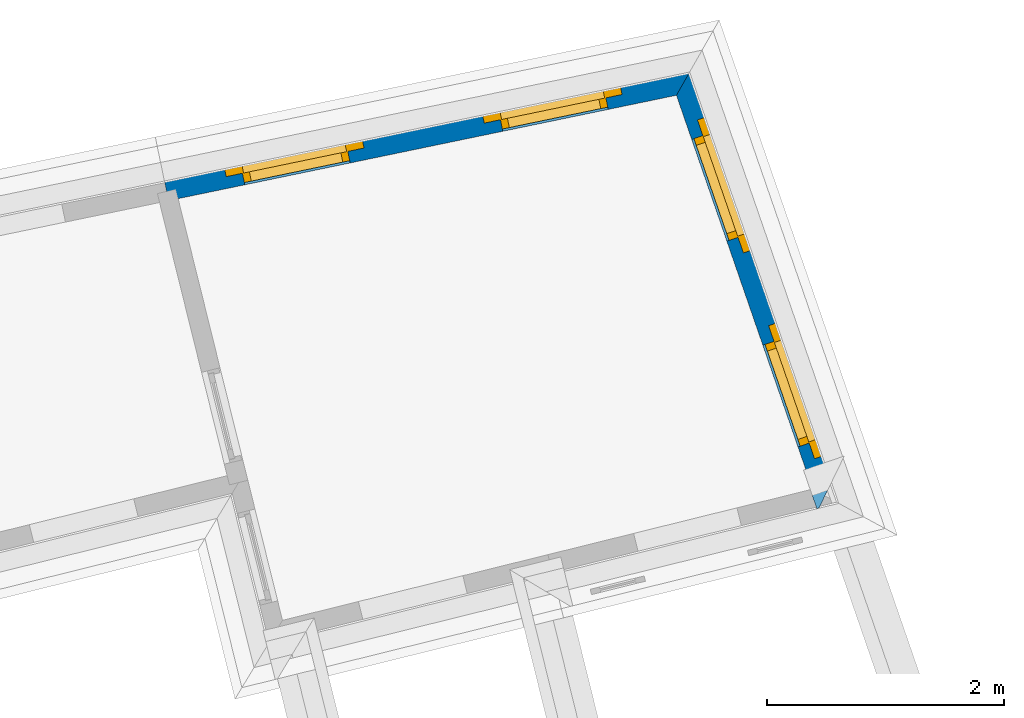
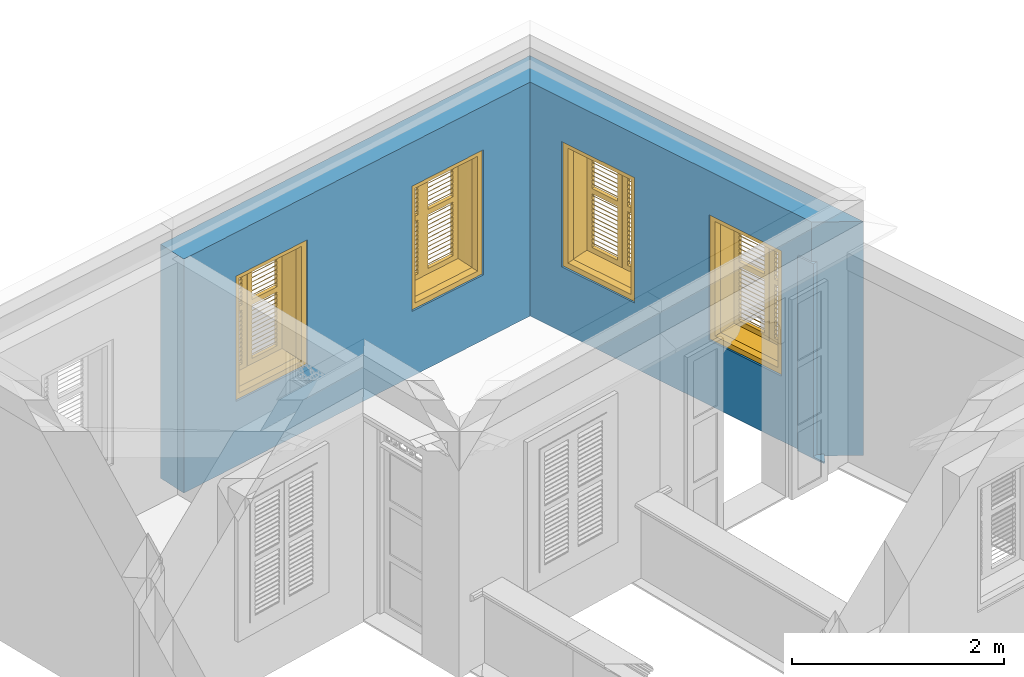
# One storey, part 12 of 15: 4 windows, 3 walls, 4 openings.
"""IFC4 building model written with IfcOpenShell, lengths in metres."""

from ifc_helpers import new_model, si_unit, frame, origin, origin_with_axes, place, context, subcontext, project, spatial, polyline, outline, extrude, clip, halfspace, faceted_brep, source, transform, mapped, material, layer, layer_set, layer_usage, material_profile, profile_set, profile_usage, type_object, type_shapes, element, fill, save


model = new_model("IFC4")

# Units and contexts
model_context = context("Model", 3, world=origin_with_axes())
body_context = subcontext(model_context, "Body", "Model", "MODEL_VIEW")
ifc_project = project(units=[si_unit("PLANEANGLEUNIT", "RADIAN"), si_unit("MASSUNIT", "GRAM", prefix="KILO"), si_unit("FORCEUNIT", "NEWTON", prefix="KILO"), si_unit("LENGTHUNIT", "METRE"), si_unit("AREAUNIT", "SQUARE_METRE"), si_unit("VOLUMEUNIT", "CUBIC_METRE")], contexts=[model_context, model_context])

# Site, building, storey
site_placement = place(None, origin_with_axes())
site = spatial("IfcSite", under=ifc_project, at=site_placement, Name="Site plot-5", CompositionType="ELEMENT")
building_placement = place(None, origin_with_axes())
building = spatial("IfcBuilding", under=site, at=building_placement, Name="Building plot-5", CompositionType="ELEMENT")
storey_placement = place(None, frame((0.0, 0.0, 3.45), z_axis=(0.0, 0.0, 1.0), x_axis=(1.0, 0.0, 0.0)))
storey = spatial("IfcBuildingStorey", under=building, at=storey_placement, Name="plot-5 1", CompositionType="ELEMENT", Elevation=3.45)

# Wall, openings, windows
ifc_material = material(Name="Masonry")
ifc_layer = layer(ifc_material, 0.33, ventilated=False)
ifc_layer_set = layer_set([ifc_layer], Name="exterior_0.08_0.25")
ifc_layer_usage = layer_usage(ifc_layer_set, "AXIS2", "POSITIVE", -0.25)
wall_type_1 = type_object("IfcWallType", Name="exterior_0.08_0.25", PredefinedType="SOLIDWALL", material=ifc_layer_set)
wall_1_placement = place(storey_placement, frame((22.7831942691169, 28.5894654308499, 0.0), z_axis=(0.0, 0.0, 1.0), x_axis=(-0.326708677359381, 0.945125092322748, 0.0)))
wall_1 = element("IfcWall", 1, at=wall_1_placement, inside=storey, type_object=wall_type_1, material=ifc_layer_usage, Name="exterior", context=body_context, shape_type="SweptSolid", body=[
    extrude(outline(polyline([(0.0875617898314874, 0.0799999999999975), (-0.273630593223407, -0.249999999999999), (3.90074241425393, -0.250000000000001), (3.61057343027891, 0.079999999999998), (0.0875617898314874, 0.0799999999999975)])), origin_with_axes(), (0.0, 0.0, 1.0), 2.7),
])
opening_1_placement = place(wall_1_placement, frame((0.465229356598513, 0.0, 0.75)))
opening_1 = element("IfcOpeningElement", 2, at=opening_1_placement, cuts=wall_1, Name="My Opening", ObjectType="Opening", context=body_context, shape_type="SweptSolid", body=[
    extrude(outline(polyline([(0.0, -0.270000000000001), (0.910000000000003, -0.270000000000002), (0.910000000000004, 1.1), (1.11022302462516e-15, 1.1), (0.0, -0.270000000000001)])), origin_with_axes(), (0.0, 0.0, 1.0), 1.445),
])
opening_2_placement = place(wall_1_placement, frame((2.30568806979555, 0.0, 0.75)))
opening_2 = element("IfcOpeningElement", 3, at=opening_2_placement, cuts=wall_1, Name="My Opening", ObjectType="Opening", context=body_context, shape_type="SweptSolid", body=[
    extrude(outline(polyline([(0.0, -0.270000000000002), (0.909999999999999, -0.270000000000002), (0.910000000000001, 1.1), (4.44089209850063e-16, 1.1), (0.0, -0.270000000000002)])), origin_with_axes(), (0.0, 0.0, 1.0), 1.445),
])
window_type = type_object("IfcWindowType", Name="shuttered_shorter", PartitioningType="DOUBLE_PANEL_HORIZONTAL", PredefinedType="NOTDEFINED")
shared_shape = source(origin(), body_context, "Body", "Brep", [
    faceted_brep([(0.393, 0.0, 0.622), (0.074, 0.0, 0.622), (0.074, 0.0, 0.632), (0.393, 0.0, 0.632), (0.074, -0.04, 0.592), (0.393, -0.04, 0.592), (0.393, -0.04, 0.582), (0.074, -0.04, 0.582), (0.517, 0.0, 0.682), (0.836, 0.0, 0.682), (0.836, 0.0, 0.672), (0.517, 0.0, 0.672), (0.517, -0.04, 0.642), (0.836, -0.04, 0.642), (0.836, -0.04, 0.632), (0.517, -0.04, 0.632), (0.517, 0.0, 0.632), (0.836, 0.0, 0.632), (0.836, 0.0, 0.622), (0.517, 0.0, 0.622), (0.517, -0.04, 0.592), (0.836, -0.04, 0.592), (0.836, -0.04, 0.582), (0.517, -0.04, 0.582), (0.517, 0.0, 0.232), (0.836, 0.0, 0.232), (0.836, 0.0, 0.222), (0.517, 0.0, 0.222), (0.517, -0.04, 0.192), (0.836, -0.04, 0.192), (0.836, -0.04, 0.182), (0.517, -0.04, 0.182), (0.517, 0.0, 0.532), (0.836, 0.0, 0.532), (0.836, 0.0, 0.522), (0.517, 0.0, 0.522), (0.517, -0.04, 0.492), (0.836, -0.04, 0.492), (0.836, -0.04, 0.482), (0.517, -0.04, 0.482), (0.517, 0.0, 0.482), (0.836, 0.0, 0.482), (0.836, 0.0, 0.472), (0.517, 0.0, 0.472), (0.517, -0.04, 0.442), (0.836, -0.04, 0.442), (0.836, -0.04, 0.432), (0.517, -0.04, 0.432), (0.517, 0.0, 0.582), (0.836, 0.0, 0.582), (0.836, 0.0, 0.572), (0.517, 0.0, 0.572), (0.517, -0.04, 0.542), (0.836, -0.04, 0.542), (0.836, -0.04, 0.532), (0.517, -0.04, 0.532), (0.517, 0.0, 0.182), (0.836, 0.0, 0.182), (0.836, 0.0, 0.172), (0.517, 0.0, 0.172), (0.517, -0.04, 0.142), (0.836, -0.04, 0.142), (0.836, -0.04, 0.132), (0.517, -0.04, 0.132), (0.517, 0.0, 0.382), (0.836, 0.0, 0.382), (0.836, 0.0, 0.372), (0.517, 0.0, 0.372), (0.517, -0.04, 0.342), (0.836, -0.04, 0.342), (0.836, -0.04, 0.332), (0.517, -0.04, 0.332), (0.517, 0.0, 0.432), (0.836, 0.0, 0.432), (0.836, 0.0, 0.422), (0.517, 0.0, 0.422), (0.517, -0.04, 0.392), (0.836, -0.04, 0.392), (0.836, -0.04, 0.382), (0.517, -0.04, 0.382), (0.517, 0.0, 0.132), (0.836, 0.0, 0.132), (0.836, 0.0, 0.122), (0.517, 0.0, 0.122), (0.517, -0.04, 0.092), (0.836, -0.04, 0.092), (0.836, -0.04, 0.082), (0.517, -0.04, 0.082), (0.517, 0.0, 0.282), (0.836, 0.0, 0.282), (0.836, 0.0, 0.272), (0.517, 0.0, 0.272), (0.517, -0.04, 0.242), (0.836, -0.04, 0.242), (0.836, -0.04, 0.232), (0.517, -0.04, 0.232), (0.517, 0.0, 0.332), (0.836, 0.0, 0.332), (0.836, 0.0, 0.322), (0.517, 0.0, 0.322), (0.517, -0.04, 0.292), (0.836, -0.04, 0.292), (0.836, -0.04, 0.282), (0.517, -0.04, 0.282), (0.517, 0.0, 1.362667), (0.836, 0.0, 1.362667), (0.836, 0.0, 1.352667), (0.517, 0.0, 1.352667), (0.517, -0.04, 1.322667), (0.836, -0.04, 1.322667), (0.836, -0.04, 1.312667), (0.517, -0.04, 1.312667), (0.517, 0.0, 1.312667), (0.836, 0.0, 1.312667), (0.836, 0.0, 1.302667), (0.517, 0.0, 1.302667), (0.517, -0.04, 1.272667), (0.836, -0.04, 1.272667), (0.836, -0.04, 1.262667), (0.517, -0.04, 1.262667), (0.517, 0.0, 0.912667), (0.836, 0.0, 0.912667), (0.836, 0.0, 0.902667), (0.517, 0.0, 0.902667), (0.517, -0.04, 0.872667), (0.836, -0.04, 0.872667), (0.836, -0.04, 0.862667), (0.517, -0.04, 0.862667), (0.517, 0.0, 1.212667), (0.836, 0.0, 1.212667), (0.836, 0.0, 1.202667), (0.517, 0.0, 1.202667), (0.517, -0.04, 1.172667), (0.836, -0.04, 1.172667), (0.836, -0.04, 1.162667), (0.517, -0.04, 1.162667), (0.517, 0.0, 1.162667), (0.836, 0.0, 1.162667), (0.836, 0.0, 1.152667), (0.517, 0.0, 1.152667), (0.517, -0.04, 1.122667), (0.836, -0.04, 1.122667), (0.836, -0.04, 1.112667), (0.517, -0.04, 1.112667), (0.517, 0.0, 1.262667), (0.836, 0.0, 1.262667), (0.836, 0.0, 1.252667), (0.517, 0.0, 1.252667), (0.517, -0.04, 1.222667), (0.836, -0.04, 1.222667), (0.836, -0.04, 1.212667), (0.517, -0.04, 1.212667), (0.517, 0.0, 0.862667), (0.836, 0.0, 0.862667), (0.836, 0.0, 0.852667), (0.517, 0.0, 0.852667), (0.517, -0.04, 0.822667), (0.836, -0.04, 0.822667), (0.836, -0.04, 0.812667), (0.517, -0.04, 0.812667), (0.517, 0.0, 1.062667), (0.836, 0.0, 1.062667), (0.836, 0.0, 1.052667), (0.517, 0.0, 1.052667), (0.517, -0.04, 1.022667), (0.836, -0.04, 1.022667), (0.836, -0.04, 1.012667), (0.517, -0.04, 1.012667), (0.517, 0.0, 1.112667), (0.836, 0.0, 1.112667), (0.836, 0.0, 1.102667), (0.517, 0.0, 1.102667), (0.517, -0.04, 1.072667), (0.836, -0.04, 1.072667), (0.836, -0.04, 1.062667), (0.517, -0.04, 1.062667), (0.517, 0.0, 0.812667), (0.836, 0.0, 0.812667), (0.836, 0.0, 0.802667), (0.517, 0.0, 0.802667), (0.517, -0.04, 0.772667), (0.836, -0.04, 0.772667), (0.836, -0.04, 0.762667), (0.517, -0.04, 0.762667), (0.517, 0.0, 0.962667), (0.836, 0.0, 0.962667), (0.836, 0.0, 0.952667), (0.517, 0.0, 0.952667), (0.517, -0.04, 0.922667), (0.836, -0.04, 0.922667), (0.836, -0.04, 0.912667), (0.517, -0.04, 0.912667), (0.517, 0.0, 1.012667), (0.836, 0.0, 1.012667), (0.836, 0.0, 1.002667), (0.517, 0.0, 1.002667), (0.517, -0.04, 0.972667), (0.836, -0.04, 0.972667), (0.836, -0.04, 0.962667), (0.517, -0.04, 0.962667), (0.074, 0.0, 0.682), (0.393, 0.0, 0.682), (0.393, 0.0, 0.672), (0.074, 0.0, 0.672), (0.074, -0.04, 0.642), (0.393, -0.04, 0.642), (0.393, -0.04, 0.632), (0.074, -0.04, 0.632), (0.074, 0.0, 0.232), (0.393, 0.0, 0.232), (0.393, 0.0, 0.222), (0.074, 0.0, 0.222), (0.074, -0.04, 0.192), (0.393, -0.04, 0.192), (0.393, -0.04, 0.182), (0.074, -0.04, 0.182), (0.074, 0.0, 0.532), (0.393, 0.0, 0.532), (0.393, 0.0, 0.522), (0.074, 0.0, 0.522), (0.074, -0.04, 0.492), (0.393, -0.04, 0.492), (0.393, -0.04, 0.482), (0.074, -0.04, 0.482), (0.074, 0.0, 0.482), (0.393, 0.0, 0.482), (0.393, 0.0, 0.472), (0.074, 0.0, 0.472), (0.074, -0.04, 0.442), (0.393, -0.04, 0.442), (0.393, -0.04, 0.432), (0.074, -0.04, 0.432), (0.074, 0.0, 0.582), (0.393, 0.0, 0.582), (0.393, 0.0, 0.572), (0.074, 0.0, 0.572), (0.074, -0.04, 0.542), (0.393, -0.04, 0.542), (0.393, -0.04, 0.532), (0.074, -0.04, 0.532), (0.074, 0.0, 0.182), (0.393, 0.0, 0.182), (0.393, 0.0, 0.172), (0.074, 0.0, 0.172), (0.074, -0.04, 0.142), (0.393, -0.04, 0.142), (0.393, -0.04, 0.132), (0.074, -0.04, 0.132), (0.074, 0.0, 0.382), (0.393, 0.0, 0.382), (0.393, 0.0, 0.372), (0.074, 0.0, 0.372), (0.074, -0.04, 0.342), (0.393, -0.04, 0.342), (0.393, -0.04, 0.332), (0.074, -0.04, 0.332), (0.074, 0.0, 0.432), (0.393, 0.0, 0.432), (0.393, 0.0, 0.422), (0.074, 0.0, 0.422), (0.074, -0.04, 0.392), (0.393, -0.04, 0.392), (0.393, -0.04, 0.382), (0.074, -0.04, 0.382), (0.074, 0.0, 0.132), (0.393, 0.0, 0.132), (0.393, 0.0, 0.122), (0.074, 0.0, 0.122), (0.074, -0.04, 0.092), (0.393, -0.04, 0.092), (0.393, -0.04, 0.082), (0.074, -0.04, 0.082), (0.074, 0.0, 0.282), (0.393, 0.0, 0.282), (0.393, 0.0, 0.272), (0.074, 0.0, 0.272), (0.074, -0.04, 0.242), (0.393, -0.04, 0.242), (0.393, -0.04, 0.232), (0.074, -0.04, 0.232), (0.074, 0.0, 0.332), (0.393, 0.0, 0.332), (0.393, 0.0, 0.322), (0.074, 0.0, 0.322), (0.074, -0.04, 0.292), (0.393, -0.04, 0.292), (0.393, -0.04, 0.282), (0.074, -0.04, 0.282), (0.074, 0.0, 1.362667), (0.393, 0.0, 1.362667), (0.393, 0.0, 1.352667), (0.074, 0.0, 1.352667), (0.074, -0.04, 1.322667), (0.393, -0.04, 1.322667), (0.393, -0.04, 1.312667), (0.074, -0.04, 1.312667), (0.074, 0.0, 1.312667), (0.393, 0.0, 1.312667), (0.393, 0.0, 1.302667), (0.074, 0.0, 1.302667), (0.074, -0.04, 1.272667), (0.393, -0.04, 1.272667), (0.393, -0.04, 1.262667), (0.074, -0.04, 1.262667), (0.074, 0.0, 0.912667), (0.393, 0.0, 0.912667), (0.393, 0.0, 0.902667), (0.074, 0.0, 0.902667), (0.074, -0.04, 0.872667), (0.393, -0.04, 0.872667), (0.393, -0.04, 0.862667), (0.074, -0.04, 0.862667), (0.074, 0.0, 1.212667), (0.393, 0.0, 1.212667), (0.393, 0.0, 1.202667), (0.074, 0.0, 1.202667), (0.074, -0.04, 1.172667), (0.393, -0.04, 1.172667), (0.393, -0.04, 1.162667), (0.074, -0.04, 1.162667), (0.074, 0.0, 1.162667), (0.393, 0.0, 1.162667), (0.393, 0.0, 1.152667), (0.074, 0.0, 1.152667), (0.074, -0.04, 1.122667), (0.393, -0.04, 1.122667), (0.393, -0.04, 1.112667), (0.074, -0.04, 1.112667), (0.074, 0.0, 1.262667), (0.393, 0.0, 1.262667), (0.393, 0.0, 1.252667), (0.074, 0.0, 1.252667), (0.074, -0.04, 1.222667), (0.393, -0.04, 1.222667), (0.393, -0.04, 1.212667), (0.074, -0.04, 1.212667), (0.074, 0.0, 0.862667), (0.393, 0.0, 0.862667), (0.393, 0.0, 0.852667), (0.074, 0.0, 0.852667), (0.074, -0.04, 0.822667), (0.393, -0.04, 0.822667), (0.393, -0.04, 0.812667), (0.074, -0.04, 0.812667), (0.074, 0.0, 1.062667), (0.393, 0.0, 1.062667), (0.393, 0.0, 1.052667), (0.074, 0.0, 1.052667), (0.074, -0.04, 1.022667), (0.393, -0.04, 1.022667), (0.393, -0.04, 1.012667), (0.074, -0.04, 1.012667), (0.074, 0.0, 1.112667), (0.393, 0.0, 1.112667), (0.393, 0.0, 1.102667), (0.074, 0.0, 1.102667), (0.074, -0.04, 1.072667), (0.393, -0.04, 1.072667), (0.393, -0.04, 1.062667), (0.074, -0.04, 1.062667), (0.074, 0.0, 0.812667), (0.393, 0.0, 0.812667), (0.393, 0.0, 0.802667), (0.074, 0.0, 0.802667), (0.074, -0.04, 0.772667), (0.393, -0.04, 0.772667), (0.393, -0.04, 0.762667), (0.074, -0.04, 0.762667), (0.074, 0.0, 0.962667), (0.393, 0.0, 0.962667), (0.393, 0.0, 0.952667), (0.074, 0.0, 0.952667), (0.074, -0.04, 0.922667), (0.393, -0.04, 0.922667), (0.393, -0.04, 0.912667), (0.074, -0.04, 0.912667), (0.074, 0.0, 1.012667), (0.393, 0.0, 1.012667), (0.393, 0.0, 1.002667), (0.074, 0.0, 1.002667), (0.074, -0.04, 0.972667), (0.393, -0.04, 0.972667), (0.393, -0.04, 0.962667), (0.074, -0.04, 0.962667), (0.517, -0.04, 0.072), (0.457, -0.04, 0.012), (0.896, -0.04, 0.012), (0.836, -0.04, 0.072), (0.457, -0.04, 0.692667), (0.517, -0.04, 0.692667), (0.457, 0.0, 0.012), (0.896, 0.0, 0.012), (0.836, -0.04, 0.692667), (0.896, -0.04, 0.692667), (0.836, 0.0, 0.072), (0.517, 0.0, 0.072), (0.457, 0.0, 0.692667), (0.517, 0.0, 0.692667), (0.517, -0.04, 0.752666), (0.457, -0.04, 0.752666), (0.896, 0.0, 0.692667), (0.836, 0.0, 0.692667), (0.836, -0.04, 0.752666), (0.896, -0.04, 0.752666), (0.457, 0.0, 0.752666), (0.457, -0.04, 1.433333), (0.517, -0.04, 1.373333), (0.896, 0.0, 0.752666), (0.836, -0.04, 1.373333), (0.896, -0.04, 1.433333), (0.457, 0.0, 1.433333), (0.517, 0.0, 0.752666), (0.836, 0.0, 0.752666), (0.517, 0.0, 1.373333), (0.896, 0.0, 1.433333), (0.836, 0.0, 1.373333), (0.074, -0.04, 0.072), (0.014, -0.04, 0.012), (0.453, -0.04, 0.012), (0.393, -0.04, 0.072), (0.014, -0.04, 0.692667), (0.074, -0.04, 0.692667), (0.014, 0.0, 0.012), (0.453, 0.0, 0.012), (0.393, -0.04, 0.692667), (0.453, -0.04, 0.692667), (0.393, 0.0, 0.072), (0.074, 0.0, 0.072), (0.014, 0.0, 0.692667), (0.074, 0.0, 0.692667), (0.074, -0.04, 0.752666), (0.014, -0.04, 0.752666), (0.453, 0.0, 0.692667), (0.393, 0.0, 0.692667), (0.393, -0.04, 0.752666), (0.453, -0.04, 0.752666), (0.014, 0.0, 0.752666), (0.014, -0.04, 1.433333), (0.074, -0.04, 1.373333), (0.453, 0.0, 0.752666), (0.393, -0.04, 1.373333), (0.453, -0.04, 1.433333), (0.014, 0.0, 1.433333), (0.074, 0.0, 0.752666), (0.393, 0.0, 0.752666), (0.074, 0.0, 1.373333), (0.453, 0.0, 1.433333), (0.393, 0.0, 1.373333), (0.0, 0.33, 1.445), (0.91, 0.33, 1.445), (0.85, 0.33, 1.385), (0.06, 0.33, 1.385), (0.91, 0.25, 1.445), (0.0, 0.25, 1.445), (0.91, 0.25, 1.445), (0.85, 0.33, 0.06), (0.91, 0.33, 0.0), (0.85, 0.25, 1.385), (0.06, 0.25, 1.385), (0.0, 0.33, 0.0), (0.06, 0.33, 0.06), (0.0, 0.25, 0.0), (0.91, 0.25, 0.0), (0.85, 0.25, 0.06), (0.06, 0.25, 0.06), (1.05, 0.25, 1.585), (-0.14, 0.25, 1.585), (-0.14, -0.03, 1.585), (1.05, -0.03, 1.585), (0.9, -0.03, 1.435), (0.01, -0.03, 1.435), (0.01, 0.25, 1.435), (0.9, 0.25, 1.435), (0.9, 0.25, 0.01), (0.9, -0.03, 0.01), (1.05, -0.03, -0.14), (1.05, 0.25, -0.14), (0.01, -0.03, 0.01), (0.01, 0.25, 0.01), (-0.14, -0.03, -0.14), (-0.14, 0.25, -0.14)], [[[0, 1, 2, 3]], [[4, 5, 3, 2]], [[5, 6, 0, 3]], [[1, 0, 6, 7]], [[2, 1, 7, 4]], [[5, 4, 7, 6]], [[8, 9, 10, 11]], [[12, 13, 9, 8]], [[13, 14, 10, 9]], [[14, 15, 11, 10]], [[15, 12, 8, 11]], [[13, 12, 15, 14]], [[16, 17, 18, 19]], [[20, 21, 17, 16]], [[21, 22, 18, 17]], [[22, 23, 19, 18]], [[23, 20, 16, 19]], [[21, 20, 23, 22]], [[24, 25, 26, 27]], [[28, 29, 25, 24]], [[29, 30, 26, 25]], [[30, 31, 27, 26]], [[31, 28, 24, 27]], [[29, 28, 31, 30]], [[32, 33, 34, 35]], [[36, 37, 33, 32]], [[37, 38, 34, 33]], [[38, 39, 35, 34]], [[39, 36, 32, 35]], [[37, 36, 39, 38]], [[40, 41, 42, 43]], [[44, 45, 41, 40]], [[45, 46, 42, 41]], [[46, 47, 43, 42]], [[47, 44, 40, 43]], [[45, 44, 47, 46]], [[48, 49, 50, 51]], [[52, 53, 49, 48]], [[53, 54, 50, 49]], [[54, 55, 51, 50]], [[55, 52, 48, 51]], [[53, 52, 55, 54]], [[56, 57, 58, 59]], [[60, 61, 57, 56]], [[61, 62, 58, 57]], [[62, 63, 59, 58]], [[63, 60, 56, 59]], [[61, 60, 63, 62]], [[64, 65, 66, 67]], [[68, 69, 65, 64]], [[69, 70, 66, 65]], [[70, 71, 67, 66]], [[71, 68, 64, 67]], [[69, 68, 71, 70]], [[72, 73, 74, 75]], [[76, 77, 73, 72]], [[77, 78, 74, 73]], [[78, 79, 75, 74]], [[79, 76, 72, 75]], [[77, 76, 79, 78]], [[80, 81, 82, 83]], [[84, 85, 81, 80]], [[85, 86, 82, 81]], [[86, 87, 83, 82]], [[87, 84, 80, 83]], [[85, 84, 87, 86]], [[88, 89, 90, 91]], [[92, 93, 89, 88]], [[93, 94, 90, 89]], [[94, 95, 91, 90]], [[95, 92, 88, 91]], [[93, 92, 95, 94]], [[96, 97, 98, 99]], [[100, 101, 97, 96]], [[101, 102, 98, 97]], [[102, 103, 99, 98]], [[103, 100, 96, 99]], [[101, 100, 103, 102]], [[104, 105, 106, 107]], [[108, 109, 105, 104]], [[109, 110, 106, 105]], [[110, 111, 107, 106]], [[111, 108, 104, 107]], [[109, 108, 111, 110]], [[112, 113, 114, 115]], [[116, 117, 113, 112]], [[117, 118, 114, 113]], [[118, 119, 115, 114]], [[119, 116, 112, 115]], [[117, 116, 119, 118]], [[120, 121, 122, 123]], [[124, 125, 121, 120]], [[125, 126, 122, 121]], [[126, 127, 123, 122]], [[127, 124, 120, 123]], [[125, 124, 127, 126]], [[128, 129, 130, 131]], [[132, 133, 129, 128]], [[133, 134, 130, 129]], [[134, 135, 131, 130]], [[135, 132, 128, 131]], [[133, 132, 135, 134]], [[136, 137, 138, 139]], [[140, 141, 137, 136]], [[141, 142, 138, 137]], [[142, 143, 139, 138]], [[139, 143, 140, 136]], [[141, 140, 143, 142]], [[144, 145, 146, 147]], [[148, 149, 145, 144]], [[149, 150, 146, 145]], [[150, 151, 147, 146]], [[151, 148, 144, 147]], [[149, 148, 151, 150]], [[152, 153, 154, 155]], [[156, 157, 153, 152]], [[157, 158, 154, 153]], [[158, 159, 155, 154]], [[159, 156, 152, 155]], [[157, 156, 159, 158]], [[160, 161, 162, 163]], [[164, 165, 161, 160]], [[165, 166, 162, 161]], [[166, 167, 163, 162]], [[167, 164, 160, 163]], [[165, 164, 167, 166]], [[168, 169, 170, 171]], [[172, 173, 169, 168]], [[173, 174, 170, 169]], [[174, 175, 171, 170]], [[175, 172, 168, 171]], [[173, 172, 175, 174]], [[176, 177, 178, 179]], [[180, 181, 177, 176]], [[181, 182, 178, 177]], [[182, 183, 179, 178]], [[183, 180, 176, 179]], [[181, 180, 183, 182]], [[184, 185, 186, 187]], [[188, 189, 185, 184]], [[189, 190, 186, 185]], [[190, 191, 187, 186]], [[191, 188, 184, 187]], [[189, 188, 191, 190]], [[192, 193, 194, 195]], [[196, 197, 193, 192]], [[197, 198, 194, 193]], [[198, 199, 195, 194]], [[199, 196, 192, 195]], [[197, 196, 199, 198]], [[200, 201, 202, 203]], [[204, 205, 201, 200]], [[205, 206, 202, 201]], [[206, 207, 203, 202]], [[207, 204, 200, 203]], [[205, 204, 207, 206]], [[208, 209, 210, 211]], [[212, 213, 209, 208]], [[213, 214, 210, 209]], [[214, 215, 211, 210]], [[215, 212, 208, 211]], [[213, 212, 215, 214]], [[216, 217, 218, 219]], [[220, 221, 217, 216]], [[221, 222, 218, 217]], [[222, 223, 219, 218]], [[223, 220, 216, 219]], [[221, 220, 223, 222]], [[224, 225, 226, 227]], [[228, 229, 225, 224]], [[229, 230, 226, 225]], [[230, 231, 227, 226]], [[231, 228, 224, 227]], [[229, 228, 231, 230]], [[232, 233, 234, 235]], [[236, 237, 233, 232]], [[237, 238, 234, 233]], [[238, 239, 235, 234]], [[239, 236, 232, 235]], [[237, 236, 239, 238]], [[240, 241, 242, 243]], [[244, 245, 241, 240]], [[245, 246, 242, 241]], [[246, 247, 243, 242]], [[247, 244, 240, 243]], [[245, 244, 247, 246]], [[248, 249, 250, 251]], [[252, 253, 249, 248]], [[253, 254, 250, 249]], [[254, 255, 251, 250]], [[255, 252, 248, 251]], [[253, 252, 255, 254]], [[256, 257, 258, 259]], [[260, 261, 257, 256]], [[261, 262, 258, 257]], [[262, 263, 259, 258]], [[263, 260, 256, 259]], [[261, 260, 263, 262]], [[264, 265, 266, 267]], [[268, 269, 265, 264]], [[269, 270, 266, 265]], [[270, 271, 267, 266]], [[271, 268, 264, 267]], [[269, 268, 271, 270]], [[272, 273, 274, 275]], [[276, 277, 273, 272]], [[277, 278, 274, 273]], [[278, 279, 275, 274]], [[279, 276, 272, 275]], [[277, 276, 279, 278]], [[280, 281, 282, 283]], [[284, 285, 281, 280]], [[285, 286, 282, 281]], [[286, 287, 283, 282]], [[287, 284, 280, 283]], [[285, 284, 287, 286]], [[288, 289, 290, 291]], [[292, 293, 289, 288]], [[293, 294, 290, 289]], [[294, 295, 291, 290]], [[295, 292, 288, 291]], [[293, 292, 295, 294]], [[296, 297, 298, 299]], [[300, 301, 297, 296]], [[301, 302, 298, 297]], [[302, 303, 299, 298]], [[303, 300, 296, 299]], [[301, 300, 303, 302]], [[304, 305, 306, 307]], [[308, 309, 305, 304]], [[309, 310, 306, 305]], [[310, 311, 307, 306]], [[311, 308, 304, 307]], [[309, 308, 311, 310]], [[312, 313, 314, 315]], [[316, 317, 313, 312]], [[317, 318, 314, 313]], [[318, 319, 315, 314]], [[319, 316, 312, 315]], [[317, 316, 319, 318]], [[320, 321, 322, 323]], [[324, 325, 321, 320]], [[325, 326, 322, 321]], [[326, 327, 323, 322]], [[327, 324, 320, 323]], [[325, 324, 327, 326]], [[328, 329, 330, 331]], [[332, 333, 329, 328]], [[333, 334, 330, 329]], [[334, 335, 331, 330]], [[335, 332, 328, 331]], [[333, 332, 335, 334]], [[336, 337, 338, 339]], [[340, 341, 337, 336]], [[341, 342, 338, 337]], [[342, 343, 339, 338]], [[343, 340, 336, 339]], [[341, 340, 343, 342]], [[344, 345, 346, 347]], [[348, 349, 345, 344]], [[349, 350, 346, 345]], [[350, 351, 347, 346]], [[351, 348, 344, 347]], [[349, 348, 351, 350]], [[352, 353, 354, 355]], [[356, 357, 353, 352]], [[357, 358, 354, 353]], [[358, 359, 355, 354]], [[359, 356, 352, 355]], [[357, 356, 359, 358]], [[360, 361, 362, 363]], [[364, 365, 361, 360]], [[365, 366, 362, 361]], [[366, 367, 363, 362]], [[367, 364, 360, 363]], [[365, 364, 367, 366]], [[368, 369, 370, 371]], [[372, 373, 369, 368]], [[373, 374, 370, 369]], [[374, 375, 371, 370]], [[375, 372, 368, 371]], [[373, 372, 375, 374]], [[376, 377, 378, 379]], [[380, 381, 377, 376]], [[381, 382, 378, 377]], [[382, 383, 379, 378]], [[383, 380, 376, 379]], [[381, 380, 383, 382]], [[384, 385, 386, 387]], [[388, 385, 384, 389]], [[390, 391, 386, 385]], [[392, 387, 386, 393]], [[384, 387, 394, 395]], [[390, 385, 388, 396]], [[389, 384, 395, 397]], [[389, 398, 399, 388]], [[390, 395, 394, 391]], [[400, 393, 386, 391]], [[387, 392, 401, 394]], [[402, 392, 393, 403]], [[396, 388, 399, 404]], [[390, 396, 397, 395]], [[392, 389, 397, 401]], [[398, 389, 392, 402]], [[405, 399, 398, 406]], [[394, 401, 400, 391]], [[407, 403, 393, 400]], [[408, 402, 403, 409]], [[404, 399, 405, 410]], [[411, 397, 396, 404]], [[397, 411, 412, 401]], [[398, 402, 412, 411]], [[406, 398, 411, 413]], [[405, 406, 408, 409]], [[401, 412, 407, 400]], [[414, 409, 403, 407]], [[402, 408, 415, 412]], [[405, 409, 414, 410]], [[404, 410, 413, 411]], [[408, 406, 413, 415]], [[412, 415, 414, 407]], [[413, 410, 414, 415]], [[416, 417, 418, 419]], [[420, 417, 416, 421]], [[422, 423, 418, 417]], [[424, 419, 418, 425]], [[416, 419, 426, 427]], [[422, 417, 420, 428]], [[421, 416, 427, 429]], [[421, 430, 431, 420]], [[422, 427, 426, 423]], [[432, 425, 418, 423]], [[419, 424, 433, 426]], [[434, 424, 425, 435]], [[428, 420, 431, 436]], [[422, 428, 429, 427]], [[424, 421, 429, 433]], [[430, 421, 424, 434]], [[437, 431, 430, 438]], [[426, 433, 432, 423]], [[439, 435, 425, 432]], [[440, 434, 435, 441]], [[436, 431, 437, 442]], [[443, 429, 428, 436]], [[429, 443, 444, 433]], [[430, 434, 444, 443]], [[438, 430, 443, 445]], [[437, 438, 440, 441]], [[433, 444, 439, 432]], [[446, 441, 435, 439]], [[434, 440, 447, 444]], [[437, 441, 446, 442]], [[436, 442, 445, 443]], [[440, 438, 445, 447]], [[444, 447, 446, 439]], [[445, 442, 446, 447]], [[448, 449, 450, 451]], [[452, 449, 448]], [[448, 453, 454]], [[448, 454, 452]], [[455, 450, 449, 456]], [[451, 450, 457, 458]], [[459, 448, 451, 460]], [[448, 459, 461, 453]], [[454, 453, 458, 457]], [[462, 452, 454]], [[454, 457, 463]], [[454, 463, 462]], [[456, 449, 452, 462]], [[450, 455, 463, 457]], [[456, 459, 460, 455]], [[460, 451, 458, 464]], [[459, 456, 462, 461]], [[464, 458, 453, 461]], [[461, 462, 463, 464]], [[455, 460, 464, 463]], [[465, 466, 467, 468]], [[469, 470, 471, 472]], [[473, 474, 469, 472]], [[465, 468, 475, 476]], [[470, 477, 478, 471]], [[474, 473, 478, 477]], [[474, 477, 479, 475]], [[470, 467, 479, 477]], [[470, 469, 468, 467]], [[474, 475, 468, 469]], [[471, 478, 480, 466]], [[473, 472, 465, 476]], [[473, 476, 480, 478]], [[466, 465, 472, 471]], [[480, 476, 475, 479]], [[480, 479, 467, 466]]]),
])
type_shapes(window_type, [shared_shape])
window_1_placement = place(storey_placement, frame((22.886383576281, 29.1173767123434, 0.75), z_axis=(0.0, 0.0, 1.0), x_axis=(-0.297304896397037, 0.860063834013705, 0.0)))
window_1 = element("IfcWindow", 4, at=window_1_placement, inside=storey, type_object=window_type, Name="circulation outside window", OverallHeight=1.445, OverallWidth=0.91, context=body_context, shape_type="MappedRepresentation", body=[
    mapped(shared_shape, transform((0.0, 0.0, 0.0), scale=1.0)),
])
fill(opening_1, window_1)
window_2_placement = place(storey_placement, frame((22.2850897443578, 30.8568404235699, 0.75), z_axis=(0.0, 0.0, 1.0), x_axis=(-0.297304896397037, 0.860063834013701, 0.0)))
window_2 = element("IfcWindow", 5, at=window_2_placement, inside=storey, type_object=window_type, Name="circulation outside window", OverallHeight=1.445, OverallWidth=0.91, context=body_context, shape_type="MappedRepresentation", body=[
    mapped(shared_shape, transform((0.0, 0.0, 0.0), scale=1.0)),
])
fill(opening_2, window_2)

wall_2_placement = place(storey_placement, frame((21.5806066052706, 32.068392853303, 0.0), z_axis=(0.0, 0.0, 1.0), x_axis=(-0.979153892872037, -0.203119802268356, 0.0)))
wall_2 = element("IfcWall", 6, at=wall_2_placement, inside=storey, type_object=wall_type_1, material=ifc_layer_usage, Name="exterior", context=body_context, shape_type="SweptSolid", body=[
    extrude(outline(polyline([(0.070343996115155, 0.0800000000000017), (-0.219824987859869, -0.249999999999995), (4.45606106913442, -0.249999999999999), (4.45606106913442, 0.0800000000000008), (0.070343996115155, 0.0800000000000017)])), origin_with_axes(), (0.0, 0.0, 1.0), 2.7),
])
opening_3_placement = place(wall_2_placement, frame((0.659015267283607, 0.0, 0.75)))
opening_3 = element("IfcOpeningElement", 7, at=opening_3_placement, cuts=wall_2, Name="My Opening", ObjectType="Opening", context=body_context, shape_type="SweptSolid", body=[
    extrude(outline(polyline([(0.0, -0.270000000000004), (0.91, -0.269999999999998), (0.909999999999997, 1.1), (-2.33146835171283e-15, 1.1), (0.0, -0.270000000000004)])), origin_with_axes(), (0.0, 0.0, 1.0), 1.445),
])
opening_4_placement = place(wall_2_placement, frame((2.88704580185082, 0.0, 0.75)))
opening_4 = element("IfcOpeningElement", 8, at=opening_4_placement, cuts=wall_2, Name="My Opening", ObjectType="Opening", context=body_context, shape_type="SweptSolid", body=[
    extrude(outline(polyline([(0.0, -0.27), (0.909999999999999, -0.269999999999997), (0.909999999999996, 1.1), (-3.10862446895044e-15, 1.1), (0.0, -0.27)])), origin_with_axes(), (0.0, 0.0, 1.0), 1.445),
])
window_3_placement = place(storey_placement, frame((20.8804868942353, 32.198905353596, 0.75), z_axis=(0.0, 0.0, 1.0), x_axis=(-0.891030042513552, -0.184839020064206, 0.0)))
window_3 = element("IfcWindow", 9, at=window_3_placement, inside=storey, type_object=window_type, Name="circulation outside window", OverallHeight=1.445, OverallWidth=0.91, context=body_context, shape_type="MappedRepresentation", body=[
    mapped(shared_shape, transform((0.0, 0.0, 0.0), scale=1.0)),
])
fill(opening_3, window_3)
window_4_placement = place(storey_placement, frame((18.698902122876, 31.7463482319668, 0.75), z_axis=(0.0, 0.0, 1.0), x_axis=(-0.891030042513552, -0.184839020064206, 0.0)))
window_4 = element("IfcWindow", 10, at=window_4_placement, inside=storey, type_object=window_type, Name="circulation outside window", OverallHeight=1.445, OverallWidth=0.91, context=body_context, shape_type="MappedRepresentation", body=[
    mapped(shared_shape, transform((0.0, 0.0, 0.0), scale=1.0)),
])
fill(opening_4, window_4)

# Wall
ifc_material_profile = material_profile(None, outline(polyline([(0.25, 0.0), (0.25, 2.245), (0.05, 2.245), (0.05, 0.02), (-0.08, 0.02), (-0.08, 0.0), (0.25, 0.0)])))
ifc_profile_set = profile_set([ifc_material_profile])
ifc_profile_usage = profile_usage(ifc_profile_set)
wall_type_2 = type_object("IfcWallType", Name="parapet street_0", PredefinedType="PARAPET", material=ifc_profile_set)
wall_3_placement = place(storey_placement, frame((21.7435566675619, 28.2300858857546, 0.0), z_axis=(0.945125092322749, 0.32670867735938, 0.0), x_axis=(-0.32670867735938, 0.945125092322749, 0.0)))
element("IfcWall", 11, at=wall_3_placement, inside=storey, type_object=wall_type_2, material=ifc_profile_usage, Name="parapet street_0", context=body_context, shape_type="Clipping", body=[
    clip(clip(extrude(outline(polyline([(0.25, 0.0), (0.25, 2.245), (0.05, 2.245), (0.05, 0.02), (-0.08, 0.02), (-0.08, 0.0), (0.25, 0.0)])), origin_with_axes(), (0.0, 0.0, 1.0), 2.1), halfspace(frame((0.0, 0.0, 1.1), z_axis=(0.707106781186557, 0.0, -0.707106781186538), x_axis=(0.0, 1.0, 0.0)), True)), halfspace(frame((0.0, 0.0, 1.0), z_axis=(-9.49410759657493e-16, 0.0, -1.0), x_axis=(0.0, 1.0, 0.0)), False)),
])

save(model, "model.ifc")
